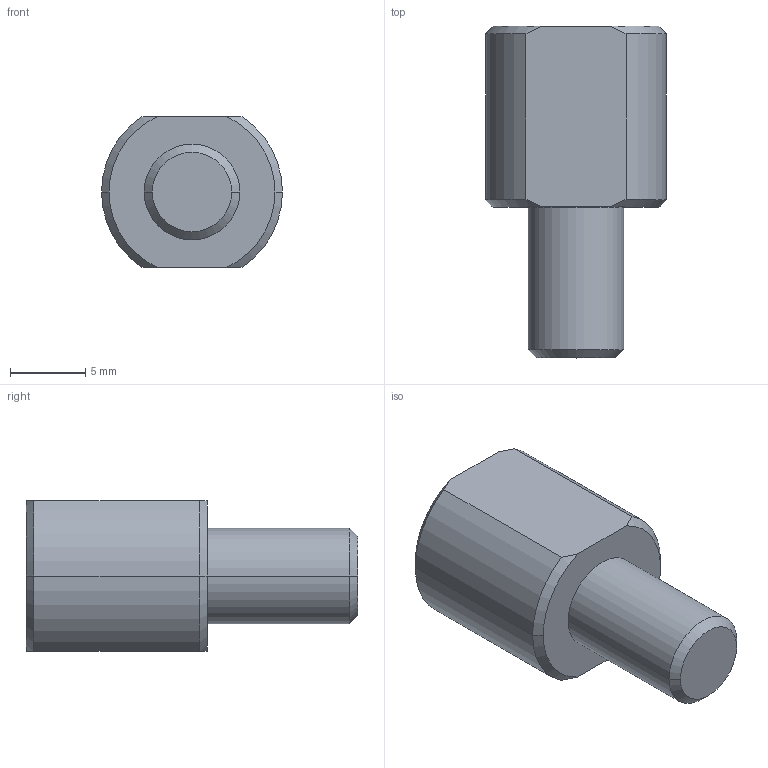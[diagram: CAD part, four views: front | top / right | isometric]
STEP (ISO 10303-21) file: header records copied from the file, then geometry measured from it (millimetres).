
FILE_DESCRIPTION( ( '' ), '1' );
FILE_NAME( '//expscmdclustefs.cadenas.external/client_exchange/iodir/jobs/output/wkb59775780_no0/STEP/E30137_2_03.stp', '2013-06-25T12:38:36', ( '' ), ( '' ), ' ', ' ', ' ' );
FILE_SCHEMA( ( 'CONFIG_CONTROL_DESIGN' ) );
Length unit declared in the file: millimetre
Products named in the file (1): 1
Bounding box: 12 x 22 x 10 mm (x, y, z)
Volume: 1429.4 mm3; surface area: 944.4 mm2
Topology: 1 solids, 1 shells, 27 faces, 62 edges, 37 vertices
Faces by surface type: cone 14, cylinder 8, plane 5
Entity records: 786 total; most frequent: CARTESIAN_POINT 141, DIRECTION 136, ORIENTED_EDGE 120, EDGE_CURVE 60, AXIS2_PLACEMENT_3D 56, VERTEX_POINT 37, EDGE_LOOP 29, CIRCLE 28
